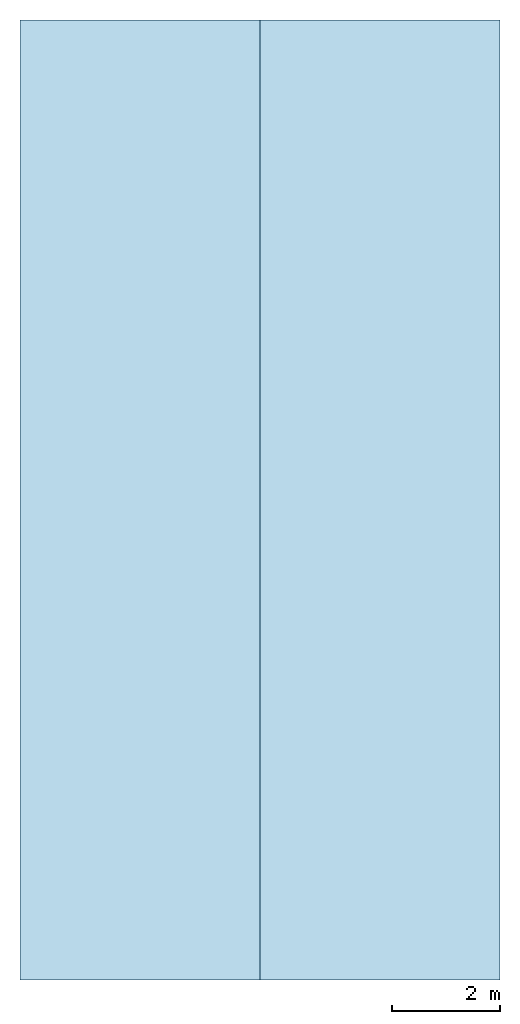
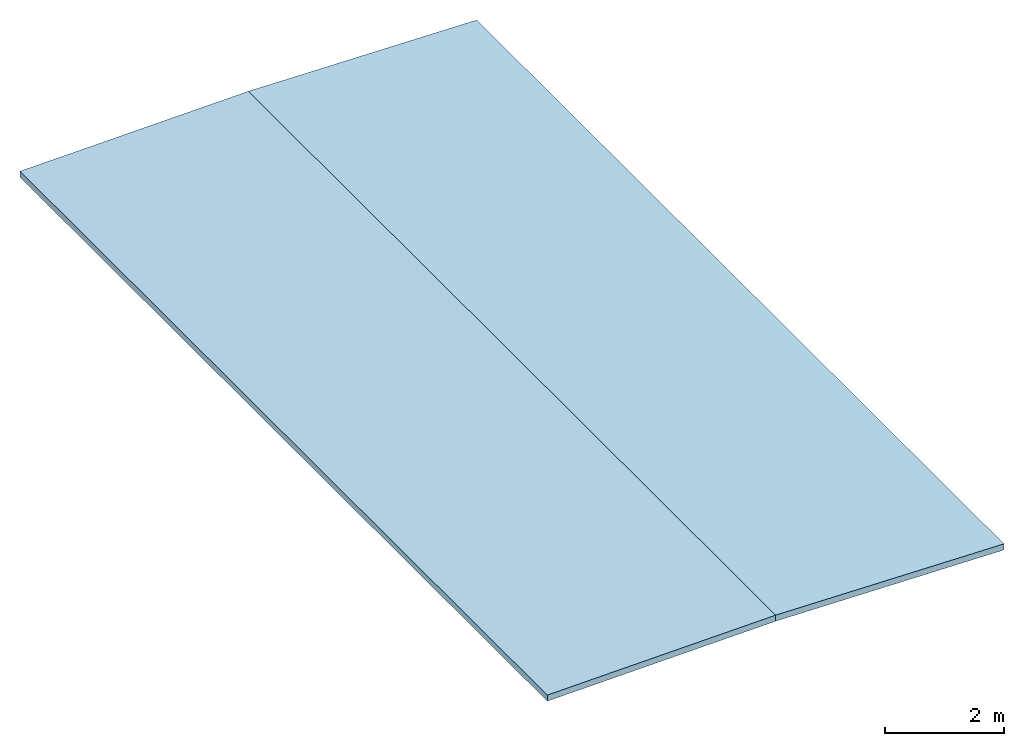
# One storey: 2 slabs, 1 element without a shape of its own.
"""IFC2X3 building model written with IfcOpenShell, lengths in millimetres."""

from ifc_helpers import new_model, entity, si_unit, converted_unit, derived_unit, direction, frame, frame_2d, origin, place, context, subcontext, project, spatial, rectangle, extrude, material, layer, layer_set, element, aggregate, save


model = new_model("IFC2X3")

# Units and contexts
model_context = context("Model", 3, precision=0.01, world=origin(), true_north=direction((6.12303176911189e-17, 1.0)))
body_context = subcontext(model_context, "Body", "Model", "MODEL_VIEW")
ifc_project = project(units=[si_unit("LENGTHUNIT", "METRE", prefix="MILLI"), si_unit("AREAUNIT", "SQUARE_METRE"), si_unit("VOLUMEUNIT", "CUBIC_METRE"), converted_unit("PLANEANGLEUNIT", "DEGREE", entity("IfcRatioMeasure", 0.0174532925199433), si_unit("PLANEANGLEUNIT", "RADIAN"), dimensions=[0, 0, 0, 0, 0, 0, 0]), si_unit("MASSUNIT", "GRAM", prefix="KILO"), derived_unit("MASSDENSITYUNIT", [(si_unit("MASSUNIT", "GRAM", prefix="KILO"), 1), (si_unit("LENGTHUNIT", "METRE"), -3)]), si_unit("TIMEUNIT", "SECOND"), si_unit("FREQUENCYUNIT", "HERTZ"), si_unit("THERMODYNAMICTEMPERATUREUNIT", "DEGREE_CELSIUS"), derived_unit("THERMALTRANSMITTANCEUNIT", [(si_unit("MASSUNIT", "GRAM", prefix="KILO"), 1), (si_unit("THERMODYNAMICTEMPERATUREUNIT", "KELVIN"), -1), (si_unit("TIMEUNIT", "SECOND"), -3)]), derived_unit("VOLUMETRICFLOWRATEUNIT", [(si_unit("LENGTHUNIT", "METRE"), 3), (si_unit("TIMEUNIT", "SECOND"), -1)]), si_unit("ELECTRICCURRENTUNIT", "AMPERE"), si_unit("ELECTRICVOLTAGEUNIT", "VOLT"), si_unit("POWERUNIT", "WATT"), si_unit("FORCEUNIT", "NEWTON", prefix="KILO"), si_unit("ILLUMINANCEUNIT", "LUX"), si_unit("LUMINOUSFLUXUNIT", "LUMEN"), si_unit("LUMINOUSINTENSITYUNIT", "CANDELA"), derived_unit("USERDEFINED", [(si_unit("MASSUNIT", "GRAM", prefix="KILO"), -1), (si_unit("LENGTHUNIT", "METRE"), -2), (si_unit("TIMEUNIT", "SECOND"), 3), (si_unit("LUMINOUSFLUXUNIT", "LUMEN"), 1)]), derived_unit("LINEARVELOCITYUNIT", [(si_unit("LENGTHUNIT", "METRE"), 1), (si_unit("TIMEUNIT", "SECOND"), -1)]), si_unit("PRESSUREUNIT", "PASCAL"), derived_unit("USERDEFINED", [(si_unit("LENGTHUNIT", "METRE"), -2), (si_unit("MASSUNIT", "GRAM", prefix="KILO"), 1), (si_unit("TIMEUNIT", "SECOND"), -2)])], contexts=[model_context])

# Site, building, storey
site_placement = place(None, origin())
site = spatial("IfcSite", under=ifc_project, at=site_placement, Name="表面", CompositionType="ELEMENT")
building_placement = place(site_placement, origin())
building = spatial("IfcBuilding", under=site, at=building_placement, CompositionType="ELEMENT")
storey_placement = place(building_placement, frame((0.0, 0.0, 5250.0)))
storey = spatial("IfcBuildingStorey", under=building, at=storey_placement, Name="5.250", CompositionType="ELEMENT", Elevation=5250.0)

# Roof, slabs
roof_placement = place(storey_placement, frame((-47528.7987814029, -6770.30259261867, 0.0)))
roof = element("IfcRoof", 1, at=roof_placement, inside=storey, Name="基本屋顶:常规 - 125mm", ObjectType="基本屋顶:常规 - 125mm", ShapeType="NOTDEFINED")
ifc_material = material(Name="彩钢-蓝")
ifc_layer = layer(ifc_material, 125.0)
ifc_layer_set = layer_set([ifc_layer], Name="基本屋顶:常规 - 125mm")
slab_1_placement = place(roof_placement, origin())
slab_1 = element("IfcSlab", 2, at=slab_1_placement, material=ifc_layer_set, Name="基本屋顶:常规 - 125mm", ObjectType="基本屋顶:常规 - 125mm", PredefinedType="ROOF", context=body_context, shape_type="SweptSolid", body=[
    extrude(rectangle(XDim=17760.0, YDim=4440.89449165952, at=frame_2d((3.02406988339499e-11, 0.0), x_axis=(0.0, 1.0))), frame((2220.0, 8880.0, 44.5642402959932), z_axis=(-0.0200699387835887, 0.0, 0.9997985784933), x_axis=(0.9997985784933, 0.0, 0.0200699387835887)), (0.0200699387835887, 0.0, 0.9997985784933), 125.025182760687),
])
slab_2_placement = place(roof_placement, origin())
slab_2 = element("IfcSlab", 3, at=slab_2_placement, material=ifc_layer_set, Name="基本屋顶:常规 - 125mm", ObjectType="基本屋顶:常规 - 125mm", PredefinedType="ROOF", context=body_context, shape_type="SweptSolid", body=[
    extrude(rectangle(XDim=4440.89449165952, YDim=17760.0, at=frame_2d((4.32009983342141e-12, 0.0), x_axis=(1.0, 0.0))), frame((6660.0, 8880.0, 44.5642402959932), z_axis=(0.020069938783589, 0.0, 0.9997985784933), x_axis=(0.9997985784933, 0.0, -0.020069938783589)), (-0.020069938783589, 0.0, 0.9997985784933), 125.025182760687),
])
aggregate(roof, [slab_1, slab_2])

save(model, "model.ifc")
